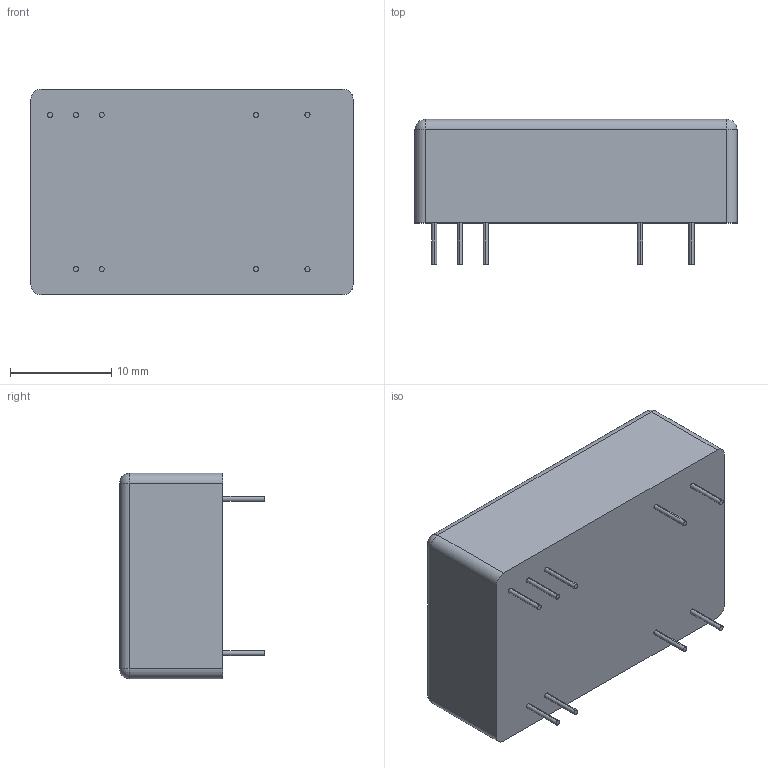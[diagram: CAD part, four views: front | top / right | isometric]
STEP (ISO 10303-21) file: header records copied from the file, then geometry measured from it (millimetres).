
FILE_DESCRIPTION (( 'STEP AP203' ), '1' );
FILE_NAME ('THD 10N Dual Output.STEP', '2020-11-13T07:57:47', ( '' ), ( '' ), 'SwSTEP 2.0', 'SolidWorks 2020', '' );
FILE_SCHEMA (( 'CONFIG_CONTROL_DESIGN' ));
Length unit declared in the file: millimetre
Products named in the file (1): THD 10N Dual Output
Bounding box: 31.8 x 14.3 x 20.3 mm (x, y, z)
Volume: 6561.3 mm3; surface area: 2348.2 mm2
Topology: 1 solids, 1 shells, 45 faces, 94 edges, 56 vertices
Faces by surface type: cylinder 26, plane 15, sphere 4
Entity records: 1257 total; most frequent: DIRECTION 234, CARTESIAN_POINT 192, ORIENTED_EDGE 180, AXIS2_PLACEMENT_3D 98, EDGE_CURVE 90, VERTEX_POINT 56, EDGE_LOOP 54, CIRCLE 52
